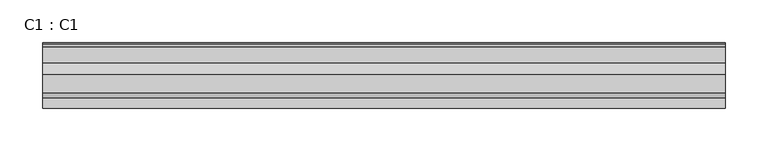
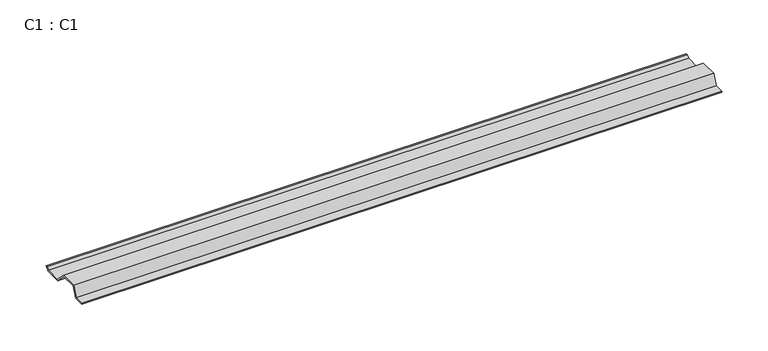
"""IFC4 building model written with IfcOpenShell, lengths in millimetres: proxy geometry, C1 : C1."""

import ifcopenshell
import ifcopenshell.guid

model = None  # the IFC model being written
_history = None  # IfcOwnerHistory: only IFC2X3 demands one
_inside = {}  # id of a spatial element -> (the spatial element, [elements in it])
_under = {}  # id of a project, library or spatial element -> (it, [spatial elements below it])
_declared = {}  # id of a project -> (the project, [libraries it declares])
_typed = {}  # id of a type object -> (the type object, [elements of that type])
_made_of = {}  # id of a material, layer set ... -> (it, [elements and type objects made of it])


def new_model(schema):
    """Start an empty IFC model of exactly this schema.

    Asked for "IFC4X3", IfcOpenShell would pick the latest addendum, in which some entities
    have other attributes; the version numbers below select the first issue.
    IFC2X3 requires an IfcOwnerHistory on every rooted entity: one is made here for all.
    """
    global model, _history
    if schema == "IFC4X3":
        model = ifcopenshell.file(schema_version=(4, 3, 0, 0))
    else:
        model = ifcopenshell.file(schema=schema)
    _inside.clear()
    _under.clear()
    _declared.clear()
    _typed.clear()
    _made_of.clear()
    _history = None
    if model.schema == "IFC2X3":
        org = make("IfcOrganization", Name="unknown")
        user = make(
            "IfcPersonAndOrganization",
            ThePerson=make("IfcPerson", FamilyName="unknown"),
            TheOrganization=org,
        )
        app = make(
            "IfcApplication",
            ApplicationDeveloper=org,
            Version="unknown",
            ApplicationFullName="unknown",
            ApplicationIdentifier="unknown",
        )
        _history = make(
            "IfcOwnerHistory",
            OwningUser=user,
            OwningApplication=app,
            ChangeAction="ADDED",
            CreationDate=0,
        )
    return model


def make(cls, **values):
    """One entity of the class cls with the attributes given. An attribute that is None is left unset."""
    return model.create_entity(
        cls, **{name: value for name, value in values.items() if value is not None}
    )


def rooted(cls, **values):
    """An entity with a GlobalId (a new one), such as an element, a storey or a relation."""
    return make(cls, GlobalId=ifcopenshell.guid.new(), OwnerHistory=_history, **values)


def si_unit(unit_type, name, prefix=None):
    """IfcSIUnit, for example si_unit("LENGTHUNIT", "METRE", prefix="MILLI")."""
    return make("IfcSIUnit", UnitType=unit_type, Prefix=prefix, Name=name)


def assignment(units):
    """IfcUnitAssignment: the units of a project."""
    return None if units is None else make("IfcUnitAssignment", Units=units)


def point(xyz):
    """IfcCartesianPoint."""
    return None if xyz is None else make("IfcCartesianPoint", Coordinates=xyz)


def direction(xyz):
    """IfcDirection."""
    return None if xyz is None else make("IfcDirection", DirectionRatios=xyz)


def frame(location, z_axis=None, x_axis=None):
    """IfcAxis2Placement3D, a coordinate frame: its origin and axes. An axis left out is left unset."""
    return make(
        "IfcAxis2Placement3D",
        Location=point(location),
        Axis=direction(z_axis),
        RefDirection=direction(x_axis),
    )


def origin():
    """The frame at (0, 0, 0) with its axes left unset."""
    return frame((0.0, 0.0, 0.0))


def place(relative_to, where):
    """IfcLocalPlacement: puts the frame where relative to a parent placement (None: the world)."""
    return make(
        "IfcLocalPlacement", PlacementRelTo=relative_to, RelativePlacement=where
    )


def context(
    kind, dimensions, precision=None, world=None, true_north=None, identifier=None
):
    """IfcGeometricRepresentationContext, for example the 3D "Model" context."""
    return make(
        "IfcGeometricRepresentationContext",
        ContextIdentifier=identifier,
        ContextType=kind,
        CoordinateSpaceDimension=dimensions,
        Precision=precision,
        WorldCoordinateSystem=world,
        TrueNorth=true_north,
    )


def project(units=None, contexts=None):
    """IfcProject with its units and contexts."""
    return rooted(
        "IfcProject",
        Name="project",
        RepresentationContexts=contexts,
        UnitsInContext=assignment(units),
    )


def spatial(cls, under=None, at=None, **own):
    """A site, building, storey or space (cls), placed at a placement, below another one or the project."""
    s = rooted(cls, ObjectPlacement=at, **own)
    if under is not None:
        _under.setdefault(under.id(), (under, []))[1].append(s)
    return s


def polyline(points):
    """IfcPolyline through the points."""
    return make("IfcPolyline", Points=[point(p) for p in points])


def outline(outer, holes=None, kind="AREA"):
    """IfcArbitraryClosedProfileDef: a profile drawn as a closed curve; with holes, ...WithVoids."""
    if holes is None:
        return make("IfcArbitraryClosedProfileDef", ProfileType=kind, OuterCurve=outer)
    return make(
        "IfcArbitraryProfileDefWithVoids",
        ProfileType=kind,
        OuterCurve=outer,
        InnerCurves=holes,
    )


def extrude(swept, where, along, depth):
    """IfcExtrudedAreaSolid: the profile swept, set in the frame where, extruded along a direction by depth."""
    return make(
        "IfcExtrudedAreaSolid",
        SweptArea=swept,
        Position=where,
        ExtrudedDirection=direction(along),
        Depth=depth,
    )


def shape(context_of_items, identifier, shape_type, items):
    """IfcShapeRepresentation: the items that make up one representation, for example the "Body"."""
    return make(
        "IfcShapeRepresentation",
        ContextOfItems=context_of_items,
        RepresentationIdentifier=identifier,
        RepresentationType=shape_type,
        Items=items,
    )


def source(mapping_origin, context_of_items, identifier, shape_type, items):
    """IfcRepresentationMap: a shape defined once, which mapped items show again and again."""
    return make(
        "IfcRepresentationMap",
        MappingOrigin=mapping_origin,
        MappedRepresentation=shape(context_of_items, identifier, shape_type, items),
    )


def transform(
    local_origin,
    x_axis=None,
    y_axis=None,
    z_axis=None,
    scale=None,
    scale2=None,
    scale3=None,
    uniform=True,
):
    """IfcCartesianTransformationOperator3D, or its non-uniform kind. x_axis, y_axis, z_axis: its Axis1, 2, 3."""
    if uniform:
        return make(
            "IfcCartesianTransformationOperator3D",
            Axis1=direction(x_axis),
            Axis2=direction(y_axis),
            LocalOrigin=point(local_origin),
            Scale=scale,
            Axis3=direction(z_axis),
        )
    return make(
        "IfcCartesianTransformationOperator3DnonUniform",
        Axis1=direction(x_axis),
        Axis2=direction(y_axis),
        LocalOrigin=point(local_origin),
        Scale=scale,
        Axis3=direction(z_axis),
        Scale2=scale2,
        Scale3=scale3,
    )


def mapped(mapping_source, mapping_target):
    """IfcMappedItem: shows the shape of a source again, moved by a transform."""
    return make(
        "IfcMappedItem", MappingSource=mapping_source, MappingTarget=mapping_target
    )


def made_of(thing, what):
    """Note that an element or type object is made of a material, layer set ...; save() writes the relation."""
    if what is not None:
        _made_of.setdefault(what.id(), (what, []))[1].append(thing)
    return thing


def element(
    cls,
    number,
    at=None,
    inside=None,
    cuts=None,
    type_object=None,
    material=None,
    context=None,
    identifier="Body",
    shape_type=None,
    held_by="IfcProductDefinitionShape",
    body=None,
    shapes=None,
    **own,
):
    """One element of the class cls, such as IfcWall. Its Tag is "e" and its number.

    at: its placement. inside: the storey or other place that contains it. cuts: it is an
    opening in that element (IfcRelVoidsElement). A single representation is given by context,
    identifier, shape_type and body (its items); several are given by shapes. held_by: the class
    of the entity that holds the representations. save() writes the other relations.
    """
    e = rooted(cls, Tag="e%d" % number, ObjectPlacement=at, **own)
    if body is not None:
        shapes = [shape(context, identifier, shape_type, body)]
    if shapes is not None:
        e.Representation = make(held_by, Representations=shapes)
    if inside is not None:
        _inside.setdefault(inside.id(), (inside, []))[1].append(e)
    if cuts is not None:
        rooted(
            "IfcRelVoidsElement", RelatingBuildingElement=cuts, RelatedOpeningElement=e
        )
    if type_object is not None:
        _typed.setdefault(type_object.id(), (type_object, []))[1].append(e)
    return made_of(e, material)


def aggregate(whole, parts):
    """IfcRelAggregates: a whole, such as a stair, and the parts it consists of."""
    return rooted("IfcRelAggregates", RelatingObject=whole, RelatedObjects=parts)


def save(model, path):
    """Write the relations noted so far, then the file.

    IfcRelAggregates (storeys below a building ...), IfcRelContainedInSpatialStructure (elements
    in a storey), IfcRelDefinesByType, IfcRelAssociatesMaterial and IfcRelDeclares: one each for
    every whole, place, type object, material and project.
    """
    for whole, parts in _under.values():
        aggregate(whole, parts)
    for where, things in _inside.values():
        rooted(
            "IfcRelContainedInSpatialStructure",
            RelatedElements=things,
            RelatingStructure=where,
        )
    for kind, things in _typed.values():
        rooted("IfcRelDefinesByType", RelatedObjects=things, RelatingType=kind)
    for what, things in _made_of.values():
        rooted("IfcRelAssociatesMaterial", RelatedObjects=things, RelatingMaterial=what)
    for by, libraries in _declared.values():
        rooted("IfcRelDeclares", RelatingContext=by, RelatedDefinitions=libraries)
    model.write(path)


def c1_c1_627c1544(model_context):
    return source(origin(), model_context, "Body", "SweptSolid", [
        extrude(outline(polyline([(-24.8328427, 1.2e-06), (-37.8328427, 13.0000012), (-57.9948698, 13.0000012), (-63.7828427, 1.2e-06), (-76.4828427, 1.2e-06), (-76.4828427, 1.4000012), (-64.6920133, 1.4000012), (-58.9040404, 14.4000012), (-37.170101, 14.4000012), (-24.170101, 1.4000012), (-4.979899, 1.4000012), (-1.979899, 4.4000012), (0.0, 4.4000012), (-4.4, 1.2e-06), (-24.8328427, 1.2e-06)])), frame((1.0, 0.0, 0.0), z_axis=(1.0, 0.0, 0.0), x_axis=(0.0, 1.0, 0.0)), (0.0, 0.0, 1.0), 798.0),
    ])


if __name__ == "__main__":
    model = new_model("IFC4")
    model_context = context("Model", 3, world=origin())
    ifc_project = project(units=[si_unit("LENGTHUNIT", "METRE", prefix="MILLI")], contexts=[model_context])
    site = spatial("IfcSite", under=ifc_project)
    building = spatial("IfcBuilding", under=site)
    placement = place(None, origin())
    c1_c1_shape = c1_c1_627c1544(model_context)
    element("IfcBuildingElementProxy", 1, Name="C1 : C1", ObjectType="C1 : C1", at=placement, inside=building, context=model_context, shape_type="MappedRepresentation", body=[
        mapped(c1_c1_shape, transform((0.0, 0.0, 0.0), x_axis=(1.0, 0.0, 0.0), y_axis=(0.0, 1.0, 0.0), z_axis=(0.0, 0.0, 1.0))),
    ])
    save(model, "model.ifc")
